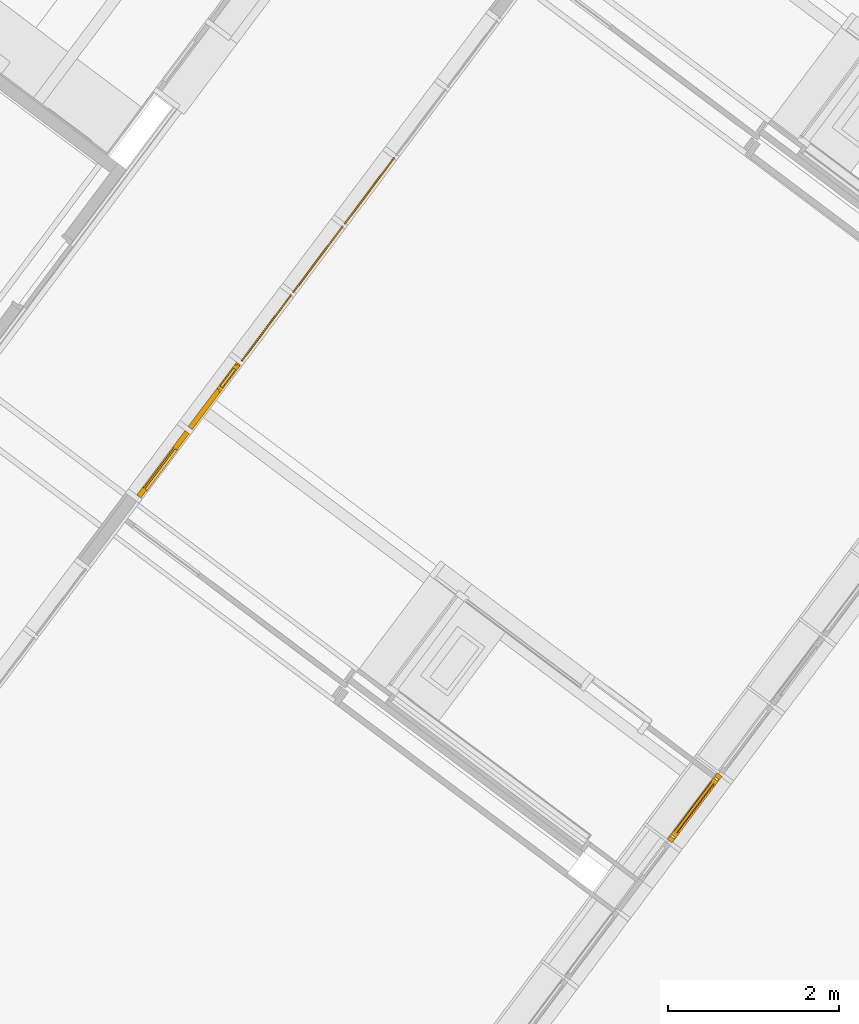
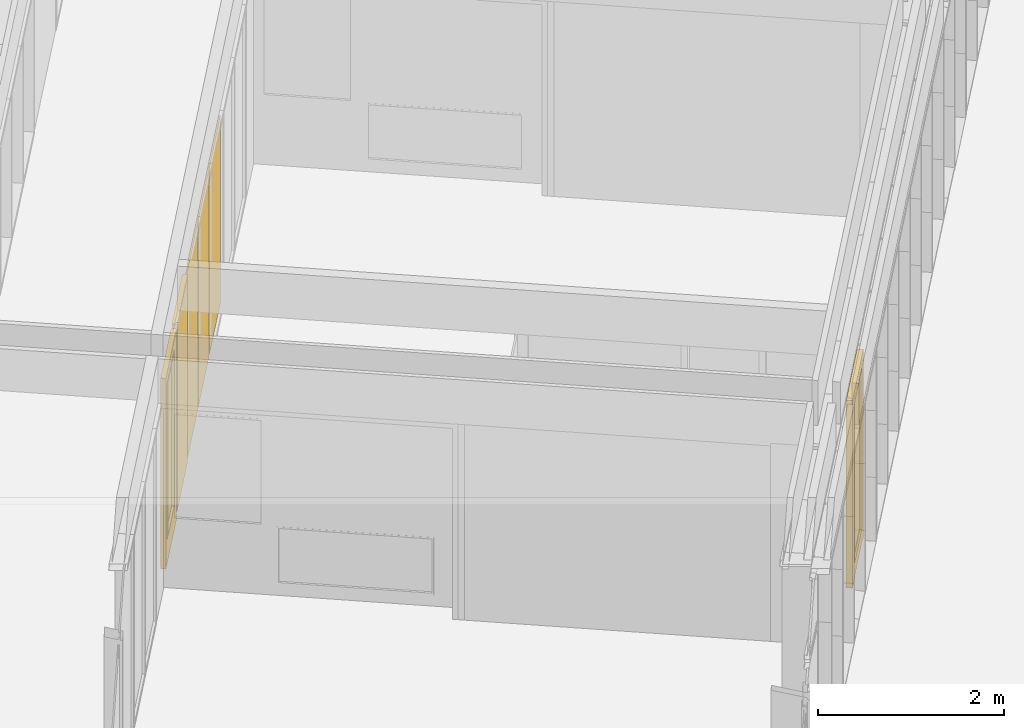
# One storey, part 153 of 243: 4 windows, 2 doors, 2 elements without a shape of their own.
"""IFC2X3 building model written with IfcOpenShell, lengths in metres."""

import ifcopenshell
import ifcopenshell.guid

model = None  # the IFC model being written
_history = None  # IfcOwnerHistory: only IFC2X3 demands one
_inside = {}  # id of a spatial element -> (the spatial element, [elements in it])
_under = {}  # id of a project, library or spatial element -> (it, [spatial elements below it])
_declared = {}  # id of a project -> (the project, [libraries it declares])
_typed = {}  # id of a type object -> (the type object, [elements of that type])
_made_of = {}  # id of a material, layer set ... -> (it, [elements and type objects made of it])


def new_model(schema):
    """Start an empty IFC model of exactly this schema.

    Asked for "IFC4X3", IfcOpenShell would pick the latest addendum, in which some entities
    have other attributes; the version numbers below select the first issue.
    IFC2X3 requires an IfcOwnerHistory on every rooted entity: one is made here for all.
    """
    global model, _history
    if schema == "IFC4X3":
        model = ifcopenshell.file(schema_version=(4, 3, 0, 0))
    else:
        model = ifcopenshell.file(schema=schema)
    _inside.clear()
    _under.clear()
    _declared.clear()
    _typed.clear()
    _made_of.clear()
    _history = None
    if model.schema == "IFC2X3":
        org = make("IfcOrganization", Name="unknown")
        user = make(
            "IfcPersonAndOrganization",
            ThePerson=make("IfcPerson", FamilyName="unknown"),
            TheOrganization=org,
        )
        app = make(
            "IfcApplication",
            ApplicationDeveloper=org,
            Version="unknown",
            ApplicationFullName="unknown",
            ApplicationIdentifier="unknown",
        )
        _history = make(
            "IfcOwnerHistory",
            OwningUser=user,
            OwningApplication=app,
            ChangeAction="ADDED",
            CreationDate=0,
        )
    return model


def make(cls, **values):
    """One entity of the class cls with the attributes given. An attribute that is None is left unset."""
    return model.create_entity(
        cls, **{name: value for name, value in values.items() if value is not None}
    )


def entity(cls, *values):
    """Any entity or typed value of the class cls, its attributes in the order of the schema. None: left unset."""
    e = model.create_entity(cls)
    for i, value in enumerate(values):
        if value is not None:
            e[i] = value
    return e


def rooted(cls, **values):
    """An entity with a GlobalId (a new one), such as an element, a storey or a relation."""
    return make(cls, GlobalId=ifcopenshell.guid.new(), OwnerHistory=_history, **values)


def si_unit(unit_type, name, prefix=None):
    """IfcSIUnit, for example si_unit("LENGTHUNIT", "METRE", prefix="MILLI")."""
    return make("IfcSIUnit", UnitType=unit_type, Prefix=prefix, Name=name)


def converted_unit(unit_type, name, factor, base, dimensions=None, offset=None):
    """IfcConversionBasedUnit, such as the inch: factor (a typed value) times the base unit."""
    return make(
        "IfcConversionBasedUnit"
        if offset is None
        else "IfcConversionBasedUnitWithOffset",
        ConversionOffset=offset,
        Dimensions=None
        if dimensions is None
        else entity("IfcDimensionalExponents", *dimensions),
        UnitType=unit_type,
        Name=name,
        ConversionFactor=make(
            "IfcMeasureWithUnit", ValueComponent=factor, UnitComponent=base
        ),
    )


def derived_unit(unit_type, elements):
    """IfcDerivedUnit: a product of units, each with its exponent."""
    return make(
        "IfcDerivedUnit",
        Elements=[
            make("IfcDerivedUnitElement", Unit=unit, Exponent=power)
            for unit, power in elements
        ],
        UnitType=unit_type,
    )


def assignment(units):
    """IfcUnitAssignment: the units of a project."""
    return None if units is None else make("IfcUnitAssignment", Units=units)


def point(xyz):
    """IfcCartesianPoint."""
    return None if xyz is None else make("IfcCartesianPoint", Coordinates=xyz)


def direction(xyz):
    """IfcDirection."""
    return None if xyz is None else make("IfcDirection", DirectionRatios=xyz)


def frame(location, z_axis=None, x_axis=None):
    """IfcAxis2Placement3D, a coordinate frame: its origin and axes. An axis left out is left unset."""
    return make(
        "IfcAxis2Placement3D",
        Location=point(location),
        Axis=direction(z_axis),
        RefDirection=direction(x_axis),
    )


def frame_2d(location, x_axis=None):
    """IfcAxis2Placement2D, a coordinate frame in the plane: its origin and x axis."""
    return make(
        "IfcAxis2Placement2D", Location=point(location), RefDirection=direction(x_axis)
    )


def origin():
    """The frame at (0, 0, 0) with its axes left unset."""
    return frame((0.0, 0.0, 0.0))


def origin_2d_with_axis():
    """The frame at (0, 0) in the plane with the x axis (1, 0) written out."""
    return frame_2d((0.0, 0.0), x_axis=(1.0, 0.0))


def place(relative_to, where):
    """IfcLocalPlacement: puts the frame where relative to a parent placement (None: the world)."""
    return make(
        "IfcLocalPlacement", PlacementRelTo=relative_to, RelativePlacement=where
    )


def context(
    kind, dimensions, precision=None, world=None, true_north=None, identifier=None
):
    """IfcGeometricRepresentationContext, for example the 3D "Model" context."""
    return make(
        "IfcGeometricRepresentationContext",
        ContextIdentifier=identifier,
        ContextType=kind,
        CoordinateSpaceDimension=dimensions,
        Precision=precision,
        WorldCoordinateSystem=world,
        TrueNorth=true_north,
    )


def subcontext(parent, identifier, kind, view, scale=None):
    """IfcGeometricRepresentationSubContext, for example "Body" below "Model"."""
    return make(
        "IfcGeometricRepresentationSubContext",
        ContextIdentifier=identifier,
        ContextType=kind,
        ParentContext=parent,
        TargetScale=scale,
        TargetView=view,
    )


def project(units=None, contexts=None):
    """IfcProject with its units and contexts."""
    return rooted(
        "IfcProject",
        Name="project",
        RepresentationContexts=contexts,
        UnitsInContext=assignment(units),
    )


def spatial(cls, under=None, at=None, **own):
    """A site, building, storey or space (cls), placed at a placement, below another one or the project."""
    s = rooted(cls, ObjectPlacement=at, **own)
    if under is not None:
        _under.setdefault(under.id(), (under, []))[1].append(s)
    return s


def profile(cls, at=None, kind="AREA", **sizes):
    """A parametric profile (cls). Its sizes go by their IFC names, for example OverallWidth=200.0."""
    return make(cls, ProfileType=kind, Position=at, **sizes)


def rectangle(**sizes):
    """IfcRectangleProfileDef."""
    return profile("IfcRectangleProfileDef", **sizes)


def extrude(swept, where, along, depth):
    """IfcExtrudedAreaSolid: the profile swept, set in the frame where, extruded along a direction by depth."""
    return make(
        "IfcExtrudedAreaSolid",
        SweptArea=swept,
        Position=where,
        ExtrudedDirection=direction(along),
        Depth=depth,
    )


def faces_of(points, faces, orient=None, outer=None):
    """IfcFace entities. A face is a list of loops; a loop is a list of indices into points, from 0.

    orient and outer hold one flag for each loop. By default every Orientation is true, the
    first loop of a face is its IfcFaceOuterBound and the others are IfcFaceBound.
    """
    made = []
    for i, loops in enumerate(faces):
        bounds = []
        for j, loop in enumerate(loops):
            is_outer = j == 0 if outer is None else outer[i][j]
            bounds.append(
                make(
                    "IfcFaceOuterBound" if is_outer else "IfcFaceBound",
                    Bound=make("IfcPolyLoop", Polygon=[points[k] for k in loop]),
                    Orientation=True if orient is None else orient[i][j],
                )
            )
        made.append(make("IfcFace", Bounds=bounds))
    return made


def faceted_brep(points, faces, orient=None, outer=None, voids=None):
    """IfcFacetedBrep: a solid bounded by flat faces; with voids (closed shells), ...WithVoids."""
    shared = [point(p) for p in points]
    hull = make("IfcClosedShell", CfsFaces=faces_of(shared, faces, orient, outer))
    if voids is None:
        return make("IfcFacetedBrep", Outer=hull)
    return make(
        "IfcFacetedBrepWithVoids",
        Outer=hull,
        Voids=[
            make(cls, CfsFaces=faces_of(shared, fs, o, b)) for cls, fs, o, b in voids
        ],
    )


def shape(context_of_items, identifier, shape_type, items):
    """IfcShapeRepresentation: the items that make up one representation, for example the "Body"."""
    return make(
        "IfcShapeRepresentation",
        ContextOfItems=context_of_items,
        RepresentationIdentifier=identifier,
        RepresentationType=shape_type,
        Items=items,
    )


def source(mapping_origin, context_of_items, identifier, shape_type, items):
    """IfcRepresentationMap: a shape defined once, which mapped items show again and again."""
    return make(
        "IfcRepresentationMap",
        MappingOrigin=mapping_origin,
        MappedRepresentation=shape(context_of_items, identifier, shape_type, items),
    )


def transform(
    local_origin,
    x_axis=None,
    y_axis=None,
    z_axis=None,
    scale=None,
    scale2=None,
    scale3=None,
    uniform=True,
):
    """IfcCartesianTransformationOperator3D, or its non-uniform kind. x_axis, y_axis, z_axis: its Axis1, 2, 3."""
    if uniform:
        return make(
            "IfcCartesianTransformationOperator3D",
            Axis1=direction(x_axis),
            Axis2=direction(y_axis),
            LocalOrigin=point(local_origin),
            Scale=scale,
            Axis3=direction(z_axis),
        )
    return make(
        "IfcCartesianTransformationOperator3DnonUniform",
        Axis1=direction(x_axis),
        Axis2=direction(y_axis),
        LocalOrigin=point(local_origin),
        Scale=scale,
        Axis3=direction(z_axis),
        Scale2=scale2,
        Scale3=scale3,
    )


def mapped(mapping_source, mapping_target):
    """IfcMappedItem: shows the shape of a source again, moved by a transform."""
    return make(
        "IfcMappedItem", MappingSource=mapping_source, MappingTarget=mapping_target
    )


def material(Name=None, Category=None):
    """IfcMaterial."""
    return make("IfcMaterial", Name=Name, Category=Category)


def material_list(materials):
    """IfcMaterialList."""
    return make("IfcMaterialList", Materials=materials)


def made_of(thing, what):
    """Note that an element or type object is made of a material, layer set ...; save() writes the relation."""
    if what is not None:
        _made_of.setdefault(what.id(), (what, []))[1].append(thing)
    return thing


def type_object(cls, material=None, **own):
    """A type object (cls), such as IfcWallType, which elements share."""
    return made_of(rooted(cls, **own), material)


def type_shapes(of_type, sources):
    """Give a type object the sources (RepresentationMaps) that its elements show as mapped items."""
    of_type.RepresentationMaps = sources


def element(
    cls,
    number,
    at=None,
    inside=None,
    cuts=None,
    type_object=None,
    material=None,
    context=None,
    identifier="Body",
    shape_type=None,
    held_by="IfcProductDefinitionShape",
    body=None,
    shapes=None,
    **own,
):
    """One element of the class cls, such as IfcWall. Its Tag is "e" and its number.

    at: its placement. inside: the storey or other place that contains it. cuts: it is an
    opening in that element (IfcRelVoidsElement). A single representation is given by context,
    identifier, shape_type and body (its items); several are given by shapes. held_by: the class
    of the entity that holds the representations. save() writes the other relations.
    """
    e = rooted(cls, Tag="e%d" % number, ObjectPlacement=at, **own)
    if body is not None:
        shapes = [shape(context, identifier, shape_type, body)]
    if shapes is not None:
        e.Representation = make(held_by, Representations=shapes)
    if inside is not None:
        _inside.setdefault(inside.id(), (inside, []))[1].append(e)
    if cuts is not None:
        rooted(
            "IfcRelVoidsElement", RelatingBuildingElement=cuts, RelatedOpeningElement=e
        )
    if type_object is not None:
        _typed.setdefault(type_object.id(), (type_object, []))[1].append(e)
    return made_of(e, material)


def aggregate(whole, parts):
    """IfcRelAggregates: a whole, such as a stair, and the parts it consists of."""
    return rooted("IfcRelAggregates", RelatingObject=whole, RelatedObjects=parts)


def save(model, path):
    """Write the relations noted so far, then the file.

    IfcRelAggregates (storeys below a building ...), IfcRelContainedInSpatialStructure (elements
    in a storey), IfcRelDefinesByType, IfcRelAssociatesMaterial and IfcRelDeclares: one each for
    every whole, place, type object, material and project.
    """
    for whole, parts in _under.values():
        aggregate(whole, parts)
    for where, things in _inside.values():
        rooted(
            "IfcRelContainedInSpatialStructure",
            RelatedElements=things,
            RelatingStructure=where,
        )
    for kind, things in _typed.values():
        rooted("IfcRelDefinesByType", RelatedObjects=things, RelatingType=kind)
    for what, things in _made_of.values():
        rooted("IfcRelAssociatesMaterial", RelatedObjects=things, RelatingMaterial=what)
    for by, libraries in _declared.values():
        rooted("IfcRelDeclares", RelatingContext=by, RelatedDefinitions=libraries)
    model.write(path)


model = new_model("IFC2X3")

# Units and contexts
model_context = context("Model", 3, precision=1e-05, world=origin(), true_north=direction((6.123031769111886e-17, 1.0)))
body_context = subcontext(model_context, "Body", "Model", "MODEL_VIEW")
ifc_project = project(units=[si_unit("LENGTHUNIT", "METRE"), si_unit("AREAUNIT", "SQUARE_METRE"), si_unit("VOLUMEUNIT", "CUBIC_METRE"), converted_unit("PLANEANGLEUNIT", "DEGREE", entity("IfcRatioMeasure", 0.017453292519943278), si_unit("PLANEANGLEUNIT", "RADIAN"), dimensions=[0, 0, 0, 0, 0, 0, 0]), si_unit("MASSUNIT", "GRAM", prefix="KILO"), derived_unit("MASSDENSITYUNIT", [(si_unit("MASSUNIT", "GRAM", prefix="KILO"), 1), (si_unit("LENGTHUNIT", "METRE"), -3)]), derived_unit("IONCONCENTRATIONUNIT", [(si_unit("MASSUNIT", "GRAM", prefix="KILO"), 1), (si_unit("LENGTHUNIT", "METRE"), -3)]), derived_unit("MOMENTOFINERTIAUNIT", [(si_unit("LENGTHUNIT", "METRE"), 4)]), si_unit("TIMEUNIT", "SECOND"), si_unit("FREQUENCYUNIT", "HERTZ"), si_unit("THERMODYNAMICTEMPERATUREUNIT", "DEGREE_CELSIUS"), derived_unit("THERMALTRANSMITTANCEUNIT", [(si_unit("MASSUNIT", "GRAM", prefix="KILO"), 1), (si_unit("THERMODYNAMICTEMPERATUREUNIT", "KELVIN"), -1), (si_unit("TIMEUNIT", "SECOND"), -3)]), derived_unit("THERMALCONDUCTANCEUNIT", [(si_unit("MASSUNIT", "GRAM", prefix="KILO"), 1), (si_unit("THERMODYNAMICTEMPERATUREUNIT", "KELVIN"), -1), (si_unit("TIMEUNIT", "SECOND"), -3), (si_unit("LENGTHUNIT", "METRE"), 1)]), derived_unit("VOLUMETRICFLOWRATEUNIT", [(si_unit("LENGTHUNIT", "METRE"), 3), (si_unit("TIMEUNIT", "SECOND"), -1)]), derived_unit("MASSFLOWRATEUNIT", [(si_unit("MASSUNIT", "GRAM", prefix="KILO"), 1), (si_unit("TIMEUNIT", "SECOND"), -1)]), derived_unit("ROTATIONALFREQUENCYUNIT", [(si_unit("TIMEUNIT", "SECOND"), -1)]), si_unit("ELECTRICCURRENTUNIT", "AMPERE"), si_unit("ELECTRICVOLTAGEUNIT", "VOLT"), si_unit("POWERUNIT", "WATT"), si_unit("FORCEUNIT", "NEWTON", prefix="KILO"), si_unit("ILLUMINANCEUNIT", "LUX"), si_unit("LUMINOUSFLUXUNIT", "LUMEN"), si_unit("LUMINOUSINTENSITYUNIT", "CANDELA"), derived_unit("USERDEFINED", [(si_unit("MASSUNIT", "GRAM", prefix="KILO"), -1), (si_unit("LENGTHUNIT", "METRE"), -2), (si_unit("TIMEUNIT", "SECOND"), 3), (si_unit("LUMINOUSFLUXUNIT", "LUMEN"), 1)]), derived_unit("USERDEFINED", [(si_unit("MASSUNIT", "GRAM", prefix="KILO"), 1), (si_unit("TIMEUNIT", "SECOND"), -3), (si_unit("LENGTHUNIT", "METRE"), 3), (si_unit("ELECTRICCURRENTUNIT", "AMPERE"), -2)]), derived_unit("SOUNDPOWERUNIT", [(si_unit("MASSUNIT", "GRAM", prefix="KILO"), 1), (si_unit("TIMEUNIT", "SECOND"), -3), (si_unit("LENGTHUNIT", "METRE"), 2)]), derived_unit("SOUNDPRESSUREUNIT", [(si_unit("MASSUNIT", "GRAM", prefix="KILO"), 1), (si_unit("LENGTHUNIT", "METRE"), -1), (si_unit("TIMEUNIT", "SECOND"), -2)]), derived_unit("LINEARVELOCITYUNIT", [(si_unit("LENGTHUNIT", "METRE"), 1), (si_unit("TIMEUNIT", "SECOND"), -1)]), si_unit("PRESSUREUNIT", "PASCAL"), derived_unit("USERDEFINED", [(si_unit("MASSUNIT", "GRAM", prefix="KILO"), 1), (si_unit("LENGTHUNIT", "METRE"), -2), (si_unit("TIMEUNIT", "SECOND"), -2)]), derived_unit("LINEARFORCEUNIT", [(si_unit("MASSUNIT", "GRAM", prefix="KILO"), 1), (si_unit("TIMEUNIT", "SECOND"), -2)]), derived_unit("PLANARFORCEUNIT", [(si_unit("MASSUNIT", "GRAM", prefix="KILO"), 1), (si_unit("LENGTHUNIT", "METRE"), -1), (si_unit("TIMEUNIT", "SECOND"), -2)]), derived_unit("SPECIFICHEATCAPACITYUNIT", [(si_unit("THERMODYNAMICTEMPERATUREUNIT", "KELVIN"), -1), (si_unit("LENGTHUNIT", "METRE"), 2), (si_unit("TIMEUNIT", "SECOND"), -2)]), derived_unit("HEATINGVALUEUNIT", [(si_unit("LENGTHUNIT", "METRE"), 2), (si_unit("TIMEUNIT", "SECOND"), -2)]), derived_unit("VAPORPERMEABILITYUNIT", [(si_unit("LENGTHUNIT", "METRE"), -1), (si_unit("TIMEUNIT", "SECOND"), 1)]), derived_unit("DYNAMICVISCOSITYUNIT", [(si_unit("MASSUNIT", "GRAM", prefix="KILO"), 1), (si_unit("TIMEUNIT", "SECOND"), -1), (si_unit("LENGTHUNIT", "METRE"), -1)]), derived_unit("THERMALEXPANSIONCOEFFICIENTUNIT", [(si_unit("THERMODYNAMICTEMPERATUREUNIT", "KELVIN"), -1)]), derived_unit("MODULUSOFELASTICITYUNIT", [(si_unit("MASSUNIT", "GRAM", prefix="KILO"), 1), (si_unit("LENGTHUNIT", "METRE"), -1), (si_unit("TIMEUNIT", "SECOND"), -2)]), derived_unit("ISOTHERMALMOISTURECAPACITYUNIT", [(si_unit("LENGTHUNIT", "METRE"), 3), (si_unit("MASSUNIT", "GRAM", prefix="KILO"), -1)]), derived_unit("MOISTUREDIFFUSIVITYUNIT", [(si_unit("TIMEUNIT", "SECOND"), -1), (si_unit("LENGTHUNIT", "METRE"), 2)])], contexts=[model_context])

# Site, building, storey
site_placement = place(None, frame((0.0, 0.0, 235.0), z_axis=(0.0, 0.0, 1.0), x_axis=(-0.7996477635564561, 0.6004693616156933, 0.0)))
site = spatial("IfcSite", under=ifc_project, at=site_placement, Name="Default", CompositionType="ELEMENT")
building_placement = place(site_placement, origin())
building = spatial("IfcBuilding", under=site, at=building_placement, CompositionType="ELEMENT")
storey_placement = place(building_placement, origin())
storey = spatial("IfcBuildingStorey", under=building, at=storey_placement, Name="P0- Escola", CompositionType="ELEMENT", Elevation=0.0)

# Curtain wall, windows, door
curtain_wall_type_1 = type_object("IfcCurtainWallType", Name="Muro cortina:MC- INT- a3", PredefinedType="NOTDEFINED")
curtain_wall_1_placement = place(storey_placement, origin())
curtain_wall_1 = element("IfcCurtainWall", 1, at=curtain_wall_1_placement, inside=storey, type_object=curtain_wall_type_1, Name="Muro cortina:MC- INT- a3", ObjectType="Muro cortina:MC- INT- a3")
ifc_material_1 = material(Name="_Vidre")
window_style_1 = type_object("IfcWindowStyle", Name="MC- Fusta- vidre fix:MC- Fusta- vidre fix", ConstructionType="NOTDEFINED", OperationType="NOTDEFINED", ParameterTakesPrecedence=False, Sizeable=False, material=ifc_material_1)
shared_shape_1 = source(origin(), body_context, "Body", "SweptSolid", [
    extrude(rectangle(XDim=0.015999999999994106, YDim=0.9699999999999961, at=origin_2d_with_axis()), frame((0.0, 0.0, 0.0), z_axis=(0.0, 0.0, 1.0), x_axis=(0.0, -1.0, 0.0)), (0.0, 0.0, 1.0), 2.475),
])
type_shapes(window_style_1, [shared_shape_1])
window_1_placement = place(curtain_wall_1_placement, frame((13.279147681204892, -30.970191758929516, 0.045000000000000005), z_axis=(0.0, 0.0, 1.0), x_axis=(0.0, -1.0, 0.0)))
window_1 = element("IfcWindow", 2, at=window_1_placement, type_object=window_style_1, material=ifc_material_1, Name="MC- Fusta- vidre fix:MC- Fusta- vidre fix", ObjectType="MC- Fusta- vidre fix:MC- Fusta- vidre fix", OverallHeight=2.475, OverallWidth=0.9699999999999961, context=body_context, shape_type="MappedRepresentation", body=[
    mapped(shared_shape_1, transform((0.0, 0.0, 0.0), scale=1.0)),
])
window_2_placement = place(curtain_wall_1_placement, frame((13.27914768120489, -29.970191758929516, 0.045000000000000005), z_axis=(0.0, 0.0, 1.0), x_axis=(0.0, -1.0, 0.0)))
window_2 = element("IfcWindow", 3, at=window_2_placement, type_object=window_style_1, material=ifc_material_1, Name="MC- Fusta- vidre fix:MC- Fusta- vidre fix", ObjectType="MC- Fusta- vidre fix:MC- Fusta- vidre fix", OverallHeight=2.475, OverallWidth=0.9699999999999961, context=body_context, shape_type="MappedRepresentation", body=[
    mapped(shared_shape_1, transform((0.0, 0.0, 0.0), scale=1.0)),
])
window_3_placement = place(curtain_wall_1_placement, frame((13.27914768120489, -28.97019175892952, 0.045000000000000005), z_axis=(0.0, 0.0, 1.0), x_axis=(0.0, -1.0, 0.0)))
window_3 = element("IfcWindow", 4, at=window_3_placement, type_object=window_style_1, material=ifc_material_1, Name="MC- Fusta- vidre fix:MC- Fusta- vidre fix", ObjectType="MC- Fusta- vidre fix:MC- Fusta- vidre fix", OverallHeight=2.475, OverallWidth=0.9699999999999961, context=body_context, shape_type="MappedRepresentation", body=[
    mapped(shared_shape_1, transform((0.0, 0.0, 0.0), scale=1.0)),
])
ifc_material_2 = material(Name="_Fusta massisa- T1-  REV- PAV")
window_style_2 = type_object("IfcWindowStyle", Name="MC- Fusta- Finestra ventilacio interior:MC- Fusta- Finestra ventilacio interior", ConstructionType="NOTDEFINED", OperationType="NOTDEFINED", ParameterTakesPrecedence=False, Sizeable=False, material=ifc_material_2)
shared_shape_2 = source(origin(), body_context, "Body", "Brep", [
    faceted_brep([(0.3930000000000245, 0.025000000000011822, 2.382999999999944), (0.13200000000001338, 0.0250000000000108, 2.3829999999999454), (0.13200000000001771, 0.025000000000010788, 1.0449999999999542), (0.3930000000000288, 0.025000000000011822, 1.0449999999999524), (0.13200000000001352, -0.004999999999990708, 2.3829999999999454), (0.13200000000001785, -0.004999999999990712, 1.0449999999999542), (0.3930000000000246, -0.004999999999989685, 2.382999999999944), (0.393000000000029, -0.00499999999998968, 1.0449999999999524), (0.08700000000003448, 0.04000000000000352, 2.427999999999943), (0.08700000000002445, 0.04000000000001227, 1.0), (0.08700000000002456, 0.01000000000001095, 1.0), (0.0870000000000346, 0.01000000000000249, 2.427999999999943), (0.4380000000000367, 0.010000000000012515, 1.0), (0.4380000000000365, 0.04000000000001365, 1.0), (0.43800000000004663, 0.0400000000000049, 2.427999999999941), (0.4380000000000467, 0.010000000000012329, 2.428000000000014), (0.07200000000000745, 0.009999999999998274, 0.9850000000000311), (0.07200000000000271, 0.010000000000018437, 2.44300000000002), (0.4530000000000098, 0.010000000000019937, 2.4430000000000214), (0.4530000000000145, 0.009999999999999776, 0.9850000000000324), (0.07200000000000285, -0.019999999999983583, 2.443000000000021), (0.07200000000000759, -0.020000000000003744, 0.9850000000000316), (0.45300000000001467, -0.02000000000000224, 0.985000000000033), (0.4530000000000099, -0.019999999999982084, 2.443000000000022)], [[[0, 1, 2, 3]], [[1, 4, 5, 2]], [[4, 6, 7, 5]], [[3, 7, 6, 0]], [[8, 9, 10, 11]], [[12, 13, 14, 15]], [[15, 14, 8, 11]], [[8, 14, 13, 9]], [[0, 6, 4, 1]], [[2, 5, 7, 3]], [[9, 13, 12, 10]], [[11, 10, 12, 15], [16, 17, 18, 19]], [[20, 21, 22, 23]], [[20, 23, 18, 17]], [[16, 21, 20, 17]], [[18, 23, 22, 19]], [[16, 19, 22, 21]]], outer=[[True], [True], [True], [True], [True], [True], [True], [True], [True], [True], [True], [False, True], [True], [True], [True], [True], [True]]),
    faceted_brep([(0.45500000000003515, -0.019999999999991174, 0.9850000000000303), (0.07000000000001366, -0.019999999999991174, 0.9850000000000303), (0.07000000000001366, -0.019999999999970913, 2.4449999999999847), (0.45500000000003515, -0.01999999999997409, 2.444999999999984), (-0.46500000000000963, -0.019999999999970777, 2.4549999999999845), (-0.4650000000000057, -0.020000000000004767, 0.005000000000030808), (0.46500000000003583, -0.020000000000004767, 0.00499999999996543), (0.46500000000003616, -0.019999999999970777, 2.4549999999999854), (0.4650000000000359, -0.01599999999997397, 2.454999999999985), (0.4650000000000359, -0.01600000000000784, 0.00499999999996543), (-0.46500000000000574, -0.01600000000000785, 0.005000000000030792), (0.47000000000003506, -0.015999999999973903, 2.459999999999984), (-0.47000000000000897, -0.015999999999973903, 2.459999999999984), (-0.4700000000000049, -0.016000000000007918, 0.0), (0.47000000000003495, -0.016000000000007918, 0.0), (-0.46500000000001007, -0.01599999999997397, 2.455000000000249), (-0.46500000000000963, 0.03600000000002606, 2.454999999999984), (-0.4650000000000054, 0.03599999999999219, 0.005000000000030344), (0.4650000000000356, 0.03599999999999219, 0.00499999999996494), (0.46500000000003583, 0.03600000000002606, 2.454999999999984), (-0.47000000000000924, 0.036000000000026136, 2.459999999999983), (0.470000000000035, 0.036000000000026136, 2.459999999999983), (0.46999999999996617, 0.03599999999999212, 0.0), (-0.4700000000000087, 0.03599999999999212, 0.0), (-0.46500000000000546, 0.03999999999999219, 0.005000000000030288), (0.46500000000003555, 0.03999999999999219, 0.005000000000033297), (0.08500000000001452, 0.040000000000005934, 1.0), (0.4400000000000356, 0.04000000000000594, 1.0), (0.4400000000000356, 0.040000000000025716, 2.4299999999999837), (0.08500000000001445, 0.040000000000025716, 2.4299999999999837), (-0.46500000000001, 0.040000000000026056, 2.4550000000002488), (0.4650000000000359, 0.040000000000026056, 2.454999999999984), (0.45500000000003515, 0.010000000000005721, 0.9850000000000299), (0.4550000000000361, 0.010000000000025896, 2.4449999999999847), (0.08500000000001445, 0.0100000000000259, 2.444999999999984), (0.07000000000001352, 0.010000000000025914, 2.444999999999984), (0.07000000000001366, 0.010000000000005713, 0.9850000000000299), (0.08500000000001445, 0.010000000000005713, 0.9850000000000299), (0.4400000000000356, 0.01000000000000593, 1.0), (0.08500000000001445, 0.010000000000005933, 1.0), (0.08500000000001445, 0.010000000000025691, 2.4299999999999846), (0.4400000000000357, 0.010000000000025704, 2.429999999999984)], [[[0, 1, 2, 3], [4, 5, 6, 7]], [[8, 7, 6, 9]], [[5, 10, 9, 6]], [[11, 12, 13, 14], [10, 15, 8, 9]], [[16, 17, 18, 19], [20, 21, 22, 23]], [[17, 24, 25, 18]], [[26, 27, 28, 29], [24, 30, 31, 25]], [[32, 33, 34, 35, 36, 37], [38, 39, 40, 41]], [[26, 39, 38, 27]], [[39, 26, 29, 40]], [[41, 28, 27, 38]], [[3, 33, 32, 0]], [[1, 36, 35, 2]], [[36, 1, 0, 32, 37]], [[4, 15, 10, 5]], [[16, 30, 24, 17]], [[12, 20, 23, 13]], [[13, 23, 22, 14]], [[21, 11, 14, 22]], [[7, 8, 15, 4]], [[11, 21, 20, 12]], [[33, 3, 2, 35, 34]], [[28, 41, 40, 29]], [[19, 31, 30, 16]], [[31, 19, 18, 25]]], outer=[[False, True], [True], [True], [True, False], [False, True], [True], [False, True], [True, False], [True], [True], [True], [True], [True], [True], [True], [True], [True], [True], [True], [True], [True], [True], [True], [True], [True]]),
])
type_shapes(window_style_2, [shared_shape_2])
window_4_placement = place(curtain_wall_1_placement, frame((13.279147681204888, -27.97019175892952, 0.059999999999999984), z_axis=(0.0, 0.0, 1.0), x_axis=(0.0, -1.0, 0.0)))
window_4 = element("IfcWindow", 5, at=window_4_placement, type_object=window_style_2, material=ifc_material_2, Name="MC- Fusta- Finestra ventilacio interior:MC- Fusta- Finestra ventilacio interior", ObjectType="MC- Fusta- Finestra ventilacio interior:MC- Fusta- Finestra ventilacio interior", OverallHeight=2.460000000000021, OverallWidth=0.9400000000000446, context=body_context, shape_type="MappedRepresentation", body=[
    mapped(shared_shape_2, transform((0.0, 0.0, 0.0), scale=1.0)),
])
ifc_material_3 = material(Name="_Fusta massisa- T1")
ifc_material_list_1 = material_list([ifc_material_3, ifc_material_1])
door_style_1 = type_object("IfcDoorStyle", Name="MC- Fusta- conjunt porta:MC- Fusta- conjunt Porta aules", ConstructionType="NOTDEFINED", OperationType="NOTDEFINED", ParameterTakesPrecedence=False, Sizeable=False, material=ifc_material_list_1)
shared_shape_3 = source(origin(), body_context, "Body", "Brep", [
    faceted_brep([(0.24500000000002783, -0.024999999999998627, 2.3799999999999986), (0.24500000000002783, -0.024999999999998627, 0.3299999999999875), (0.24500000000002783, 0.0050000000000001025, 0.3299999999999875), (0.24500000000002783, 0.0050000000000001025, 2.3799999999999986), (-0.3700000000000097, -0.024999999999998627, 0.3299999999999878), (-0.3700000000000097, 0.0050000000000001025, 0.3299999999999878), (-0.37000000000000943, -0.024999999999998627, 2.3799999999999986), (-0.37000000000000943, 0.0050000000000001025, 2.3799999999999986), (0.23000000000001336, 0.0050000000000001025, 2.3650000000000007), (-0.35499999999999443, 0.0050000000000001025, 2.3650000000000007), (-0.35499999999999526, 0.0050000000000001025, 0.3449999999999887), (0.23000000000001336, 0.0050000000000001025, 0.34499999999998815), (0.23000000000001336, -0.024999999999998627, 2.3650000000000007), (0.23000000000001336, -0.024999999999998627, 0.34499999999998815), (-0.35499999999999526, -0.024999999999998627, 0.3449999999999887), (-0.35499999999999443, -0.024999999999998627, 2.3650000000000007)], [[[0, 1, 2, 3]], [[1, 4, 5, 2]], [[4, 6, 7, 5]], [[8, 9, 10, 11], [3, 2, 5, 7]], [[12, 13, 14, 15], [0, 6, 4, 1]], [[13, 12, 8, 11]], [[14, 13, 11, 10]], [[15, 14, 10, 9]], [[6, 0, 3, 7]], [[12, 15, 9, 8]]], outer=[[True], [True], [True], [False, True], [False, True], [True], [True], [True], [True], [True]]),
    faceted_brep([(0.43999999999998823, 0.03999999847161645, 0.0), (0.43999999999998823, 0.0099999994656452, 0.0), (0.4550000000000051, 0.0099999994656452, 0.0), (0.4550000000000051, -0.01999999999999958, 0.0), (-0.45499999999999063, -0.019999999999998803, 0.0), (-0.45499999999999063, 0.009999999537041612, 0.0), (-0.43999999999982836, 0.009999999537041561, 0.0), (-0.43999999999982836, 0.039999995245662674, 0.0), (0.45500000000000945, -0.01999999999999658, 2.4899999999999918), (-0.45499999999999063, -0.019999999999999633, 2.4899999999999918), (0.24500000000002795, -0.019999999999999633, 0.3300000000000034), (-0.37000000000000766, -0.019999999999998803, 0.3300000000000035), (-0.37000000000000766, -0.01999999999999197, 2.3799999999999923), (0.24500000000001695, -0.019999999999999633, 2.3799999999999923), (0.45500000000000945, 0.0099999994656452, 2.4899999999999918), (-0.45499999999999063, 0.0099999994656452, 2.4899999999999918), (0.43999999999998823, 0.03999999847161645, 2.4749999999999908), (0.43999999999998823, 0.0099999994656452, 2.4749999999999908), (-0.43999999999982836, 0.0099999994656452, 2.4749999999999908), (-0.43999999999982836, 0.039999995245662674, 2.4749999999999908), (-0.3549999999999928, 0.03999999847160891, 0.3450000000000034), (0.2300000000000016, 0.03999999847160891, 0.3450000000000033), (0.2300000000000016, 0.03999999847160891, 2.364999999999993), (-0.3549999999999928, 0.03999999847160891, 2.364999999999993), (-0.3549999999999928, 0.025000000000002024, 0.3450000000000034), (0.2300000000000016, 0.025000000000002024, 0.3450000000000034), (0.2300000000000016, 0.024999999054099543, 2.364999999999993), (-0.3549999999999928, 0.03999999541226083, 2.364999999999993), (-0.3549999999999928, 0.024999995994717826, 2.364999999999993), (0.2300000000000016, 0.025000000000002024, 2.364999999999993), (-0.37000000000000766, 0.025000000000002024, 0.3300000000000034), (0.24500000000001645, 0.025000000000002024, 0.3300000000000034), (0.24500000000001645, 0.025000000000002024, 2.3799999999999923), (-0.37000000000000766, 0.025000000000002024, 2.3799999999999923), (0.24500000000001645, 0.024999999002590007, 0.3300000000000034), (-0.37000000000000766, 0.02499999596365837, 2.3799999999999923), (0.24500000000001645, 0.024999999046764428, 2.3799999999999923)], [[[0, 1, 2, 3, 4, 5, 6, 7]], [[8, 9, 4, 3], [10, 11, 12, 13]], [[8, 3, 2, 14]], [[15, 5, 4, 9]], [[16, 17, 1, 0]], [[14, 2, 1, 17, 18, 6, 5, 15]], [[18, 19, 7, 6]], [[16, 0, 7, 19], [20, 21, 22, 23]], [[21, 20, 24, 25]], [[21, 25, 26, 22]], [[24, 20, 27, 28]], [[25, 24, 28, 29], [30, 31, 32, 33]], [[11, 10, 31, 30]], [[34, 10, 13, 32]], [[11, 30, 35, 12]], [[9, 8, 14, 15]], [[17, 16, 19, 18]], [[23, 22, 29, 28]], [[13, 12, 33, 36]]], outer=[[True], [True, False], [True], [True], [True], [True], [True], [True, False], [True], [True], [True], [False, True], [True], [True], [True], [True], [True], [True], [True]]),
    faceted_brep([(-0.37000000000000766, 0.024999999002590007, 0.3300000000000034), (0.2450000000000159, 0.024999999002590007, 0.3300000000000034), (0.2450000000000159, 0.0050000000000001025, 0.3300000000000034), (-0.37000000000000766, 0.0050000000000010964, 0.3300000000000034), (-0.37000000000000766, 0.024999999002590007, 2.380000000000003), (0.2450000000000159, 0.024999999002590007, 2.380000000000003), (0.2450000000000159, 0.0050000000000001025, 2.380000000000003), (-0.37000000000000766, 0.0050000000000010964, 2.380000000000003)], [[[0, 1, 2, 3]], [[4, 5, 1, 0]], [[5, 6, 2, 1]], [[6, 7, 3, 2]], [[7, 4, 0, 3]], [[4, 7, 6, 5]]]),
    faceted_brep([(0.46500000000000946, -0.01999999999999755, 0.0), (0.4550000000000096, -0.01999999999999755, 0.0), (0.4550000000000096, 0.010000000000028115, 0.0), (0.44000000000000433, 0.010000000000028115, 0.0), (0.44000000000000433, 0.0400000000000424, 0.0), (0.46500000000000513, 0.0400000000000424, 0.0), (0.46500000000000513, 0.03600000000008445, 0.0), (0.469999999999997, 0.03600000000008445, 0.0), (0.469999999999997, -0.015999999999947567, 0.0), (0.46500000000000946, -0.015999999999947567, 0.0), (0.46500000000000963, -0.01999999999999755, 2.5000000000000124), (-0.46500000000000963, -0.01999999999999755, 2.5000000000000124), (-0.46500000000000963, -0.01999999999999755, 0.0), (-0.45500000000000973, -0.01999999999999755, 0.0), (-0.45500000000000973, -0.01999999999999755, 2.4900000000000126), (0.4550000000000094, -0.01999999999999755, 2.490000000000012), (0.4550000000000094, 0.010000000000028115, 2.490000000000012), (-0.45500000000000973, 0.010000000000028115, 2.4900000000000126), (-0.45500000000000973, 0.010000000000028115, 0.0), (-0.4400000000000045, 0.010000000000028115, 0.0), (-0.4400000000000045, 0.010000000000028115, 2.4750000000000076), (0.4400000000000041, 0.010000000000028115, 2.4750000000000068), (0.4400000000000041, 0.0400000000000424, 2.4750000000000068), (-0.4400000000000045, 0.0400000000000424, 2.4750000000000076), (-0.4400000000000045, 0.0400000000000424, 0.0), (-0.4650000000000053, 0.0400000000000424, 0.0), (-0.4650000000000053, 0.0400000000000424, 2.5000000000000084), (0.46500000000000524, 0.0400000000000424, 2.5000000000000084), (0.46500000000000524, 0.03600000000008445, 2.5000000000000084), (-0.4650000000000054, 0.03600000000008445, 2.5000000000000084), (-0.4650000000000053, 0.03600000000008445, 0.0), (-0.4699999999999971, 0.03600000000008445, 0.0), (-0.4699999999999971, 0.03600000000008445, 2.5050000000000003), (0.46999999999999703, 0.03600000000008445, 2.5050000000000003), (0.46999999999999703, -0.015999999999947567, 2.5050000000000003), (-0.46999999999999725, -0.015999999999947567, 2.5050000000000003), (-0.4699999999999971, -0.015999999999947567, 0.0), (-0.46500000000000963, -0.015999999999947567, 0.0), (-0.46500000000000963, -0.015999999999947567, 2.5000000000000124), (0.4650000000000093, -0.015999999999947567, 2.500000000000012)], [[[0, 1, 2, 3, 4, 5, 6, 7, 8, 9]], [[1, 0, 10, 11, 12, 13, 14, 15]], [[2, 1, 15, 16]], [[3, 2, 16, 17, 18, 19, 20, 21]], [[4, 3, 21, 22]], [[5, 4, 22, 23, 24, 25, 26, 27]], [[6, 5, 27, 28]], [[7, 6, 28, 29, 30, 31, 32, 33]], [[8, 7, 33, 34]], [[9, 8, 34, 35, 36, 37, 38, 39]], [[0, 9, 39, 10]], [[11, 38, 37, 12]], [[12, 37, 36, 31, 30, 25, 24, 19, 18, 13]], [[17, 14, 13, 18]], [[23, 20, 19, 24]], [[29, 26, 25, 30]], [[35, 32, 31, 36]], [[16, 15, 14, 17]], [[22, 21, 20, 23]], [[28, 27, 26, 29]], [[34, 33, 32, 35]], [[10, 39, 38, 11]]]),
])
type_shapes(door_style_1, [shared_shape_3])
door_1_placement = place(curtain_wall_1_placement, frame((13.279147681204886, -26.970191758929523, 0.0), z_axis=(0.0, 0.0, 1.0), x_axis=(0.0, -1.0, 0.0)))
door_1 = element("IfcDoor", 6, at=door_1_placement, type_object=door_style_1, material=ifc_material_list_1, Name="MC- Fusta- conjunt porta:MC- Fusta- conjunt Porta aules", ObjectType="MC- Fusta- conjunt porta:MC- Fusta- conjunt Porta aules", OverallHeight=2.5050000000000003, OverallWidth=0.9399999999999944, context=body_context, shape_type="MappedRepresentation", body=[
    mapped(shared_shape_3, transform((0.0, 0.0, 0.0), scale=1.0)),
])
aggregate(curtain_wall_1, [window_1, window_2, window_3, window_4, door_1])

# Curtain wall, door
curtain_wall_type_2 = type_object("IfcCurtainWallType", Name="Muro cortina:MC- EXT- MC2", PredefinedType="NOTDEFINED")
curtain_wall_2_placement = place(storey_placement, origin())
curtain_wall_2 = element("IfcCurtainWall", 7, at=curtain_wall_2_placement, inside=storey, type_object=curtain_wall_type_2, Name="Muro cortina:MC- EXT- MC2", ObjectType="Muro cortina:MC- EXT- MC2")
ifc_material_4 = material(Name="_Alumini- T1- Perfil")
ifc_material_list_2 = material_list([ifc_material_4, ifc_material_1])
door_style_2 = type_object("IfcDoorStyle", Name="MC- Alu- Conjunt porta- 70x60 cm- +15cm- obertura int:MC- Alu- Conjunt porta- 70x60 cm- +15cm- obertura int", ConstructionType="NOTDEFINED", OperationType="NOTDEFINED", ParameterTakesPrecedence=False, Sizeable=False, material=ifc_material_list_2)
shared_shape_4 = source(origin(), body_context, "Body", "Brep", [
    faceted_brep([(-0.41169999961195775, 0.0, 0.024000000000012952), (0.41169999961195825, 0.0, 0.024000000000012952), (0.41169999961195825, -0.06569970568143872, 0.024000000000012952), (-0.4116999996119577, -0.0656997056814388, 0.024000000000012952), (-0.41169999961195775, -0.0656997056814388, 2.3904499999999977), (-0.41169999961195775, 0.0, 2.3904499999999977), (0.4116999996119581, -0.06569970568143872, 2.3904499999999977), (0.43569999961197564, -0.06569970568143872, 0.0), (-0.43569999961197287, -0.06569970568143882, 0.0), (-0.4356999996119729, -0.06569970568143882, 2.414450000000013), (0.43569999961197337, -0.06569970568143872, 2.414450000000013), (0.41169999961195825, 0.0, 2.3904499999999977), (-0.3350999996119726, 0.0, 2.3138500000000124), (-0.3350999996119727, 0.0, 0.20400000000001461), (0.33509999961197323, 0.0, 0.20400000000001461), (0.33509999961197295, 0.0, 2.313850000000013), (0.43569999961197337, -0.0699997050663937, 2.414450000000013), (0.43569999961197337, -0.0699997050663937, 0.0), (-0.43569999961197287, -0.06999970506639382, 0.0), (-0.4356999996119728, -0.06999970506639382, 2.4144500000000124), (0.33509999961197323, -0.06999970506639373, 2.313850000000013), (0.3350999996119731, -0.06999970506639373, 0.20400000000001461), (-0.3350999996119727, -0.06999970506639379, 0.20400000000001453), (-0.33509999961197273, -0.06999970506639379, 2.313850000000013), (0.33509999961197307, -0.06449970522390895, 2.313850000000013), (0.33509999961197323, -0.06449970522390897, 0.20400000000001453), (-0.3350999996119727, -0.06449970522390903, 0.20400000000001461), (-0.3350999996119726, -0.06449970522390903, 2.3138500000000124), (0.3601000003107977, -0.06449970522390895, 2.3388500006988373), (0.3601000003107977, -0.06449970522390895, 0.17899999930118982), (-0.36010000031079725, -0.06449970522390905, 0.17899999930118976), (-0.36010000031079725, -0.06449970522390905, 2.3388500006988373), (0.3601000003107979, -0.01899970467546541, 2.3388500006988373), (0.3601000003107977, -0.01899970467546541, 0.17899999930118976), (-0.36010000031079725, -0.018999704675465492, 0.17899999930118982), (-0.36010000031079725, -0.01899970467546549, 2.3388500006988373), (0.33509999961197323, -0.018999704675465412, 2.313850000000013), (0.3350999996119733, -0.018999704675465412, 0.20400000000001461), (-0.3350999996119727, -0.018999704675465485, 0.20400000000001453), (-0.33509999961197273, -0.018999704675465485, 2.313850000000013)], [[[0, 1, 2, 3]], [[4, 5, 0, 3]], [[2, 6, 4, 3], [7, 8, 9, 10]], [[2, 1, 11, 6]], [[11, 1, 0, 5], [12, 13, 14, 15]], [[16, 17, 7, 10]], [[8, 7, 17, 18]], [[18, 17, 16, 19], [20, 21, 22, 23]], [[24, 25, 21, 20]], [[21, 25, 26, 22]], [[27, 26, 25, 24], [28, 29, 30, 31]], [[32, 33, 29, 28]], [[33, 34, 30, 29]], [[35, 34, 33, 32], [36, 37, 38, 39]], [[15, 14, 37, 36]], [[37, 14, 13, 38]], [[9, 8, 18, 19]], [[23, 22, 26, 27]], [[31, 30, 34, 35]], [[39, 38, 13, 12]], [[19, 16, 10, 9]], [[27, 24, 20, 23]], [[35, 32, 28, 31]], [[12, 15, 36, 39]], [[4, 6, 11, 5]]], outer=[[True], [True], [False, True], [True], [True, False], [True], [True], [True, False], [True], [True], [False, True], [True], [True], [True, False], [True], [True], [True], [True], [True], [True], [True], [True], [True], [True], [True]]),
    faceted_brep([(0.3601000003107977, -0.06089980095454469, 0.17899999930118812), (-0.3601000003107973, -0.06089980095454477, 0.17899999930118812), (-0.36010000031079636, -0.028899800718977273, 0.17899999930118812), (0.3601000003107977, -0.02889980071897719, 0.17899999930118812), (0.3601000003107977, -0.060899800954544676, 2.3388500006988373), (0.3601000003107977, -0.02889980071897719, 2.3388500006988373), (-0.36010000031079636, -0.028899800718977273, 2.3388500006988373), (-0.3601000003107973, -0.06089980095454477, 2.3388500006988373)], [[[0, 1, 2, 3]], [[4, 0, 3, 5]], [[5, 3, 2, 6]], [[6, 2, 1, 7]], [[7, 1, 0, 4]], [[4, 5, 6, 7]]]),
    faceted_brep([(-0.48499999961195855, -0.06999999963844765, 0.0), (-0.48499999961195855, 0.0, 0.0), (-0.4176999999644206, 0.0, 0.0), (-0.4176999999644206, -0.008800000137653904, 0.0), (-0.4331999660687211, -0.008800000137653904, 0.0), (-0.4331999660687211, -0.059699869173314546, 0.0), (-0.44369999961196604, -0.059699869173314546, 0.0), (-0.44369999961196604, -0.06999999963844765, 0.0), (-0.44369999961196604, -0.06999999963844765, 2.4224500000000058), (0.44369999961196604, -0.06999999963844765, 2.4224500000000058), (0.44369999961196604, -0.06999999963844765, 0.0), (0.48499999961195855, -0.06999999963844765, 0.0), (0.48499999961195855, -0.06999999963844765, 2.4637499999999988), (-0.4849999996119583, -0.06999999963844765, 2.4637499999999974), (-0.44369999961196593, -0.059699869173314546, 2.4224500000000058), (-0.4331999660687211, -0.059699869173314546, 2.4119499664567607), (0.4331999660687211, -0.059699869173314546, 2.4119499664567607), (0.4331999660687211, -0.059699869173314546, 0.0), (0.44369999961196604, -0.059699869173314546, 0.0), (0.44369999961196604, -0.059699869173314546, 2.4224500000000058), (-0.4331999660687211, -0.008800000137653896, 2.4119499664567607), (-0.4176999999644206, -0.008800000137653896, 2.39645000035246), (0.4176999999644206, -0.008800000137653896, 2.39645000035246), (0.4176999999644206, -0.008800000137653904, 0.0), (0.4331999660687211, -0.008800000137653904, 0.0), (0.4331999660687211, -0.008800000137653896, 2.4119499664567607), (-0.4176999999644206, 0.0, 2.39645000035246), (-0.48499999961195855, 0.0, 2.4637499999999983), (0.48499999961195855, 0.0, 2.4637499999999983), (0.48499999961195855, 0.0, 0.0), (0.4176999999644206, 0.0, 0.0), (0.4176999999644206, 0.0, 2.39645000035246)], [[[0, 1, 2, 3, 4, 5, 6, 7]], [[7, 8, 9, 10, 11, 12, 13, 0]], [[6, 14, 8, 7]], [[5, 15, 16, 17, 18, 19, 14, 6]], [[4, 20, 15, 5]], [[3, 21, 22, 23, 24, 25, 20, 4]], [[2, 26, 21, 3]], [[1, 27, 28, 29, 30, 31, 26, 2]], [[0, 13, 27, 1]], [[11, 10, 18, 17, 24, 23, 30, 29]], [[12, 11, 29, 28]], [[31, 30, 23, 22]], [[25, 24, 17, 16]], [[19, 18, 10, 9]], [[14, 19, 9, 8]], [[20, 25, 16, 15]], [[26, 31, 22, 21]], [[13, 12, 28, 27]]]),
])
type_shapes(door_style_2, [shared_shape_4])
door_2_placement = place(curtain_wall_2_placement, frame((5.885147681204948, -27.490191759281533, 0.020000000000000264), z_axis=(0.0, 0.0, 1.0), x_axis=(0.0, 1.0, 0.0)))
door_2 = element("IfcDoor", 8, at=door_2_placement, type_object=door_style_2, material=ifc_material_list_2, Name="MC- Alu- Conjunt porta- 70x60 cm- +15cm- obertura int:MC- Alu- Conjunt porta- 70x60 cm- +15cm- obertura int", ObjectType="MC- Alu- Conjunt porta- 70x60 cm- +15cm- obertura int:MC- Alu- Conjunt porta- 70x60 cm- +15cm- obertura int", OverallHeight=2.463750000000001, OverallWidth=0.9699999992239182, context=body_context, shape_type="MappedRepresentation", body=[
    mapped(shared_shape_4, transform((0.0, 0.0, 0.0), scale=1.0)),
])
aggregate(curtain_wall_2, [door_2])

save(model, "model.ifc")
